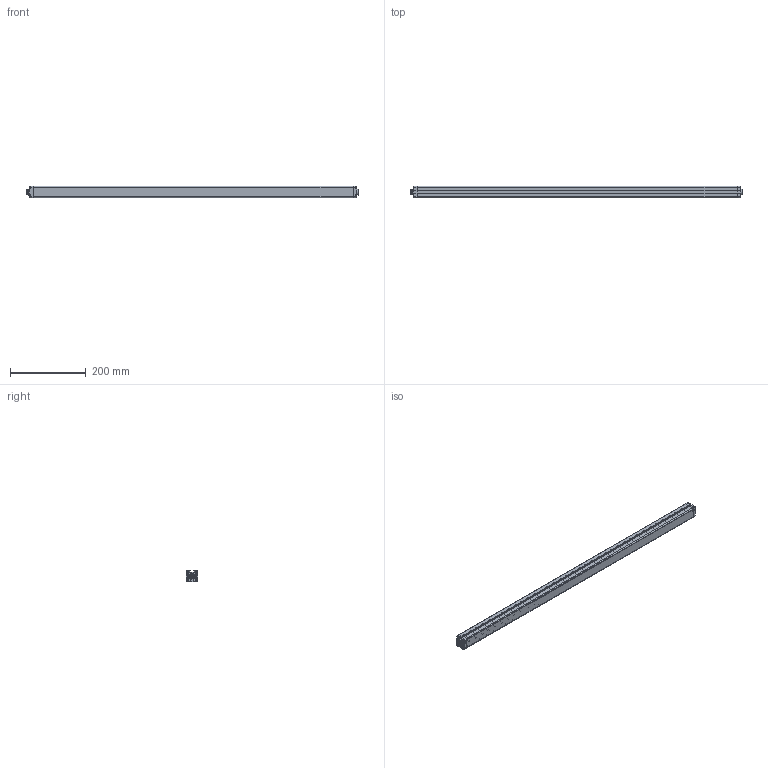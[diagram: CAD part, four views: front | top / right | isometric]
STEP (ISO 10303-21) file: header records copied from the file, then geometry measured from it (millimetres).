
FILE_DESCRIPTION(/* description */ (''),/* implementation_level */ '2;1');
FILE_NAME(/* name */ 'THS5-168.stp',/* time_stamp */ '2024-09-18T10:47:43+08:00',/* author */ (''),/* organization */ (''),/* preprocessor_version */ 'ST-DEVELOPER v16',/* originating_system */ 'SIEMENS PLM Software NX 11.0',/* authorisation */ '');
FILE_SCHEMA (('AP203_CONFIGURATION_CONTROLLED_3D_DESIGN_OF_MECHANICAL_PARTS_AND_ASSEMBLIES_MIM_LF { 1 0 10303 403 2 1 2}'));
Length unit declared in the file: millimetre
Products named in the file (9): 16960960; 14961961; 12962962; 13963963; 102964964; 101965965; 11966966; ASM0002_ASM967967; THS5-144_stp
Assembly tree (8 placements, depth 3):
  THS5-144_stp
    11966966
    101965965
    102964964
    13963963
    12962962
    ASM0002_ASM967967
      14961961
      16960960
Bounding box: 879.5 x 30.3 x 31.3 mm (x, y, z)
Volume: 293398.4 mm3; surface area: 328793.2 mm2
Topology: 5 solids, 7 shells, 540 faces, 1505 edges, 993 vertices
Faces by surface type: plane 382, cylinder 144, cone 14
Entity records: 18340 total; most frequent: CARTESIAN_POINT 3095, ORIENTED_EDGE 3006, DIRECTION 2911, EDGE_CURVE 1505, LINE 1173, VECTOR 1173, VERTEX_POINT 993, AXIS2_PLACEMENT_3D 869
